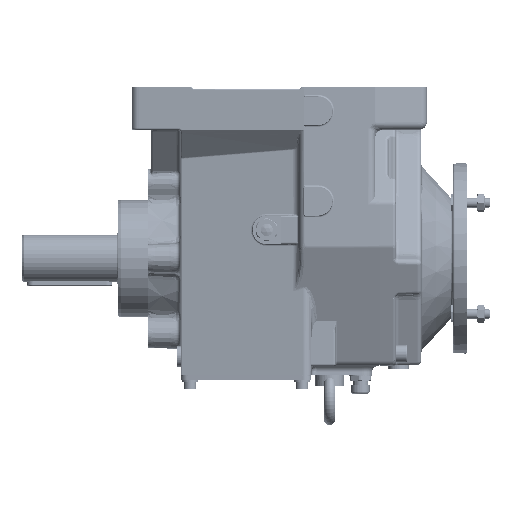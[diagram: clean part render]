
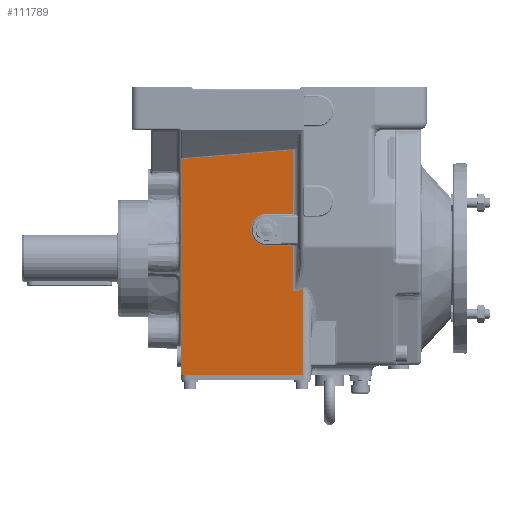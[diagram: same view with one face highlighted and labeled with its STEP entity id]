
A CAD part, left-side view. The second image highlights one B-rep face of the part: STEP entity #111789.
In plain terms, the highlighted planar face has unit normal (-0.99, 0.139, 0).
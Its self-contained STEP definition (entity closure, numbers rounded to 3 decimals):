
#106437=CARTESIAN_POINT('',(-125.274,13.105,-122.0));
#106438=VERTEX_POINT('',#106437);
#106446=CARTESIAN_POINT('',(-128.243,-8.019,-122.0));
#106447=VERTEX_POINT('',#106446);
#106448=CARTESIAN_POINT('',(-125.274,13.105,-122.0));
#106449=DIRECTION('',(-0.139,-0.99,0.0));
#106450=VECTOR('',#106449,21.332);
#106451=LINE('',#106448,#106450);
#106452=EDGE_CURVE('',#106438,#106447,#106451,.T.);
#111639=CARTESIAN_POINT('',(-112.742,102.278,-257.));
#111640=VERTEX_POINT('',#111639);
#111648=CARTESIAN_POINT('',(-112.742,102.278,-30.547));
#111649=VERTEX_POINT('',#111648);
#111650=CARTESIAN_POINT('',(-112.742,102.278,-257.));
#111651=DIRECTION('',(0.0,0.0,1.0));
#111652=VECTOR('',#111651,226.453);
#111653=LINE('',#111650,#111652);
#111654=EDGE_CURVE('',#111640,#111649,#111653,.T.);
#111671=CARTESIAN_POINT('',(-112.5,104.,0.0));
#111672=DIRECTION('',(-0.99,0.139,0.0));
#111673=DIRECTION('',(0.0,0.0,1.0));
#111674=AXIS2_PLACEMENT_3D('',#111671,#111672,#111673);
#111675=PLANE('',#111674);
#111676=CARTESIAN_POINT('',(-130.544,-24.387,-257.));
#111677=VERTEX_POINT('',#111676);
#111678=CARTESIAN_POINT('',(-112.742,102.278,-257.));
#111679=DIRECTION('',(-0.139,-0.99,0.0));
#111680=VECTOR('',#111679,127.91);
#111681=LINE('',#111678,#111680);
#111682=EDGE_CURVE('',#111640,#111677,#111681,.T.);
#111683=ORIENTED_EDGE('',*,*,#111682,.T.);
#111684=CARTESIAN_POINT('',(-130.544,-24.387,-167.09));
#111685=VERTEX_POINT('',#111684);
#111686=CARTESIAN_POINT('',(-130.544,-24.387,-167.09));
#111687=DIRECTION('',(0.0,0.0,-1.0));
#111688=VECTOR('',#111687,89.91);
#111689=LINE('',#111686,#111688);
#111690=EDGE_CURVE('',#111685,#111677,#111689,.T.);
#111691=ORIENTED_EDGE('',*,*,#111690,.F.);
#111692=CARTESIAN_POINT('',(-129.865,-19.556,-168.859));
#111693=VERTEX_POINT('',#111692);
#111694=CARTESIAN_POINT('',(-129.865,-19.556,-168.859));
#111695=DIRECTION('',(-0.131,-0.931,0.341));
#111696=VECTOR('',#111695,5.188);
#111697=LINE('',#111694,#111696);
#111698=EDGE_CURVE('',#111693,#111685,#111697,.T.);
#111699=ORIENTED_EDGE('',*,*,#111698,.F.);
#111700=CARTESIAN_POINT('',(-129.029,-13.613,-168.717));
#111701=VERTEX_POINT('',#111700);
#111702=CARTESIAN_POINT('',(-129.029,-13.613,-168.717));
#111703=CARTESIAN_POINT('',(-129.03,-13.616,-168.719));
#111704=CARTESIAN_POINT('',(-129.03,-13.618,-168.721));
#111705=CARTESIAN_POINT('',(-129.053,-13.777,-168.854));
#111706=CARTESIAN_POINT('',(-129.103,-14.133,-169.07));
#111707=CARTESIAN_POINT('',(-129.184,-14.713,-169.288));
#111708=CARTESIAN_POINT('',(-129.269,-15.314,-169.422));
#111709=CARTESIAN_POINT('',(-129.355,-15.929,-169.487));
#111710=CARTESIAN_POINT('',(-129.441,-16.542,-169.493));
#111711=CARTESIAN_POINT('',(-129.528,-17.158,-169.449));
#111712=CARTESIAN_POINT('',(-129.614,-17.77,-169.358));
#111713=CARTESIAN_POINT('',(-129.699,-18.377,-169.228));
#111714=CARTESIAN_POINT('',(-129.783,-18.974,-169.061));
#111715=CARTESIAN_POINT('',(-129.838,-19.364,-168.929));
#111716=CARTESIAN_POINT('',(-129.865,-19.556,-168.859));
#111717=B_SPLINE_CURVE_WITH_KNOTS('',3,(#111702,#111703,#111704,#111705,#111706,#111707,#111708,#111709,#111710,#111711,#111712,#111713,#111714,#111715,#111716),.UNSPECIFIED.,.F.,.U.,(4,2,1,1,1,1,1,1,1,1,1,4),(-0.62,-0.62,-0.558,-0.496,-0.434,-0.372,-0.31,-0.248,-0.186,-0.124,-0.062,0.0),.UNSPECIFIED.);
#111718=EDGE_CURVE('',#111701,#111693,#111717,.T.);
#111719=ORIENTED_EDGE('',*,*,#111718,.F.);
#111720=CARTESIAN_POINT('',(-129.029,-13.613,-121.97));
#111721=VERTEX_POINT('',#111720);
#111722=CARTESIAN_POINT('',(-129.029,-13.613,-121.97));
#111723=DIRECTION('',(0.0,0.0,-1.0));
#111724=VECTOR('',#111723,46.747);
#111725=LINE('',#111722,#111724);
#111726=EDGE_CURVE('',#111721,#111701,#111725,.T.);
#111727=ORIENTED_EDGE('',*,*,#111726,.F.);
#111728=CARTESIAN_POINT('',(-128.243,-8.019,-118.0));
#111729=DIRECTION('',(-0.99,0.139,0.));
#111730=DIRECTION('',(-0.139,-0.99,0.));
#111731=AXIS2_PLACEMENT_3D('',#111728,#111729,#111730);
#111732=ELLIPSE('',#111731,45.895,4.);
#111733=EDGE_CURVE('',#106447,#111721,#111732,.T.);
#111734=ORIENTED_EDGE('',*,*,#111733,.F.);
#111735=ORIENTED_EDGE('',*,*,#106452,.F.);
#111736=CARTESIAN_POINT('',(-125.274,13.105,-88.0));
#111737=VERTEX_POINT('',#111736);
#111738=CARTESIAN_POINT('',(-125.274,13.105,-105.0));
#111739=DIRECTION('',(-0.99,0.139,0.));
#111740=DIRECTION('',(0.139,0.99,0.));
#111741=AXIS2_PLACEMENT_3D('',#111738,#111739,#111740);
#111742=ELLIPSE('',#111741,17.065,17.);
#111743=EDGE_CURVE('',#111737,#106438,#111742,.T.);
#111744=ORIENTED_EDGE('',*,*,#111743,.F.);
#111745=CARTESIAN_POINT('',(-128.243,-8.019,-88.0));
#111746=VERTEX_POINT('',#111745);
#111747=CARTESIAN_POINT('',(-128.243,-8.019,-88.));
#111748=DIRECTION('',(0.139,0.99,0.));
#111749=VECTOR('',#111748,21.332);
#111750=LINE('',#111747,#111749);
#111751=EDGE_CURVE('',#111746,#111737,#111750,.T.);
#111752=ORIENTED_EDGE('',*,*,#111751,.F.);
#111753=CARTESIAN_POINT('',(-129.029,-13.613,-88.03));
#111754=VERTEX_POINT('',#111753);
#111755=CARTESIAN_POINT('',(-128.243,-8.019,-92.0));
#111756=DIRECTION('',(-0.99,0.139,0.0));
#111757=DIRECTION('',(-0.139,-0.99,0.));
#111758=AXIS2_PLACEMENT_3D('',#111755,#111756,#111757);
#111759=ELLIPSE('',#111758,45.895,4.);
#111760=EDGE_CURVE('',#111754,#111746,#111759,.T.);
#111761=ORIENTED_EDGE('',*,*,#111760,.F.);
#111762=CARTESIAN_POINT('',(-129.029,-13.613,-21.277));
#111763=VERTEX_POINT('',#111762);
#111764=CARTESIAN_POINT('',(-129.029,-13.613,-21.277));
#111765=DIRECTION('',(0.0,0.0,-1.0));
#111766=VECTOR('',#111765,66.753);
#111767=LINE('',#111764,#111766);
#111768=EDGE_CURVE('',#111763,#111754,#111767,.T.);
#111769=ORIENTED_EDGE('',*,*,#111768,.F.);
#111770=CARTESIAN_POINT('',(-112.787,101.959,-30.542));
#111771=VERTEX_POINT('',#111770);
#111772=CARTESIAN_POINT('',(-112.787,101.959,-30.542));
#111773=CARTESIAN_POINT('',(-118.201,63.435,-27.452));
#111774=CARTESIAN_POINT('',(-123.615,24.911,-24.363));
#111775=CARTESIAN_POINT('',(-129.029,-13.613,-21.277));
#111776=B_SPLINE_CURVE_WITH_KNOTS('',3,(#111772,#111773,#111774,#111775),.UNSPECIFIED.,.F.,.U.,(4,4),(-11.708,0.0),.UNSPECIFIED.);
#111777=EDGE_CURVE('',#111771,#111763,#111776,.T.);
#111778=ORIENTED_EDGE('',*,*,#111777,.F.);
#111779=CARTESIAN_POINT('',(-112.742,102.278,-30.547));
#111780=CARTESIAN_POINT('',(-112.757,102.172,-30.553));
#111781=CARTESIAN_POINT('',(-112.772,102.065,-30.551));
#111782=CARTESIAN_POINT('',(-112.787,101.959,-30.542));
#111783=B_SPLINE_CURVE_WITH_KNOTS('',3,(#111779,#111780,#111781,#111782),.UNSPECIFIED.,.F.,.U.,(4,4),(-0.032,0.0),.UNSPECIFIED.);
#111784=EDGE_CURVE('',#111649,#111771,#111783,.T.);
#111785=ORIENTED_EDGE('',*,*,#111784,.F.);
#111786=ORIENTED_EDGE('',*,*,#111654,.F.);
#111787=EDGE_LOOP('',(#111683,#111691,#111699,#111719,#111727,#111734,#111735,#111744,#111752,#111761,#111769,#111778,#111785,#111786));
#111788=FACE_OUTER_BOUND('',#111787,.T.);
#111789=ADVANCED_FACE('',(#111788),#111675,.T.);
